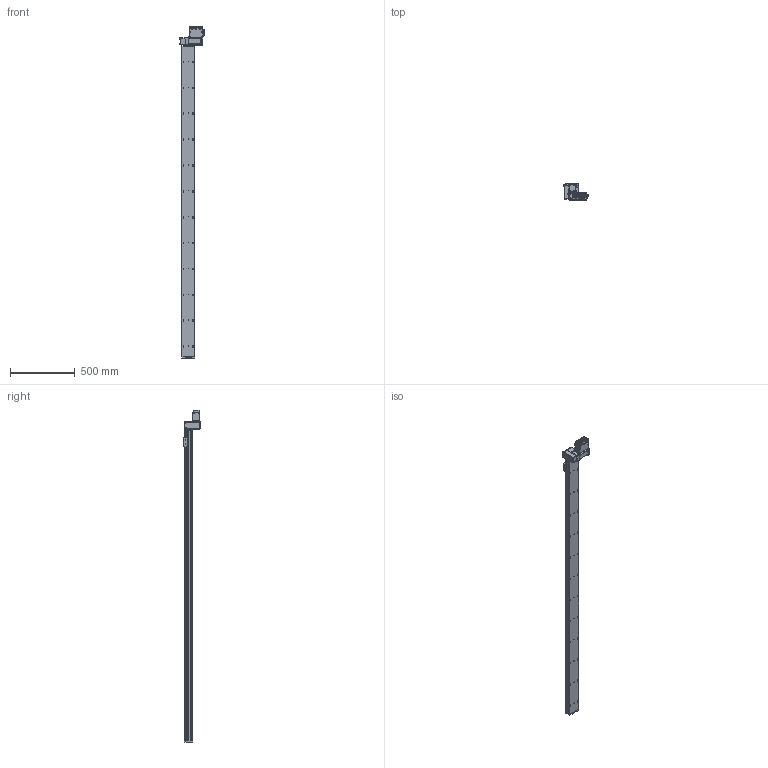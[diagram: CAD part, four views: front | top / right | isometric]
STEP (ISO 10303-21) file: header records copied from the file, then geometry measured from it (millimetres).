
FILE_DESCRIPTION (( 'STEP AP203' ), '1' );
FILE_NAME ('S10 TBN RH S2400.STEP', '2012-06-14T09:41:03', ( 'Conseil Régional Haute-Normandie' ), ( 'Conseil Régional Haute-Normandie' ), 'SwSTEP 2.0', 'SolidWorks 2010', '' );
FILE_SCHEMA (( 'CONFIG_CONTROL_DESIGN' ));
Length unit declared in the file: millimetre
Products named in the file (30): cache t皻e axe_Default; S10 TBN RH S2400; Moteur 60BLDC90A_3; Couvercle_3; Colonnette ronde_3; Radiateur profil_X2_00E9_X0_ 100x25_3; vis M5 L12_Default; vis M5 L5_Default; Vis M5 L16-2_Default_1; cache t皻e_Default; axe 2400; embout; palette tbn; Plaque racord_Default; renvoi LH_Default; plaque de bout s10_Default; Assem1_7; T_X2_00F4_X0_le contre le moteur_5; BU41 Carte Alimentation P05_3; Colonnette_3; BU45 Carte d''axe A11_5; T_X2_00F4_X0_le fond_3; Connecteur rond D10 3cts_5; Connecteur rond D12 4cts_5; Sub D 9cts 90_X2_00B_X0__3; T_X2_00F4_X0_le Arri_X2_00E8_X0_re_5; T_X2_00F4_X0_le lat_X2_00E9_X0_rale_5; Vis TF 3 torkx_1_1; Cvis M5 L30_Default; Vis TF 3 torkx
Assembly tree (69 placements, depth 3):
  S10 TBN RH S2400
    Assem1_7
      T_X2_00F4_X0_le fond_3
      Vis TF 3 torkx_1_1  x21
      BU45 Carte d''axe A11_5
      Couvercle_3
      Colonnette_3  x2
      Colonnette ronde_3
      T_X2_00F4_X0_le Arri_X2_00E8_X0_re_5
      Connecteur rond D12 4cts_5
      BU41 Carte Alimentation P05_3
      Moteur 60BLDC90A_3
      Connecteur rond D10 3cts_5  x2
      Sub D 9cts 90_X2_00B_X0__3
      Radiateur profil_X2_00E9_X0_ 100x25_3
      T_X2_00F4_X0_le lat_X2_00E9_X0_rale_5  x2
      T_X2_00F4_X0_le contre le moteur_5
    vis M5 L12_Default  x4
    vis M5 L5_Default  x4
    Vis TF 3 torkx  x7
    embout
    Vis M5 L16-2_Default_1  x4
    Plaque racord_Default
    renvoi LH_Default
    palette tbn
    cache t皻e axe_Default
    cache t皻e_Default  x2
    Cvis M5 L30_Default  x2
    axe 2400
    plaque de bout s10_Default
Bounding box: 189.8 x 124.75 x 2566.5 mm (x, y, z)
Volume: 13229958 mm3; surface area: 1425463.5 mm2
Topology: 68 solids, 68 shells, 2554 faces, 6334 edges, 4098 vertices
Faces by surface type: plane 1220, cylinder 1103, cone 188, bspline 40, torus 3
Entity records: 50480 total; most frequent: CARTESIAN_POINT 9031, DIRECTION 8175, ORIENTED_EDGE 7388, EDGE_CURVE 3694, AXIS2_PLACEMENT_3D 3053, VERTEX_POINT 2414, LINE 2069, VECTOR 2069
